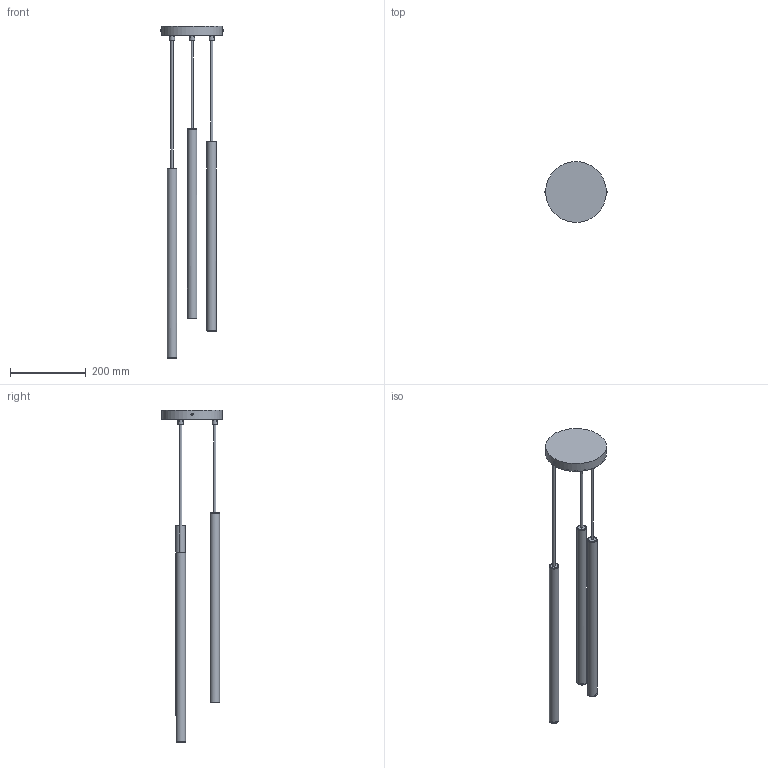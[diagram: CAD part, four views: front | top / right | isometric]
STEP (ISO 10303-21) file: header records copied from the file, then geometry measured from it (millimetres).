
FILE_DESCRIPTION ((), '1');
FILE_NAME ('C:\SIGMA\SOPEL 3\SOPEL 3.stp', '2026-04-15T13:00:22', ('Unknown'), ('Unknown'), 'HarmonyWare STEP v2.1.4', 'HarmonyWare Translators', '');
FILE_SCHEMA (('CONFIG_CONTROL_DESIGN'));
Length unit declared in the file: centimetre
Products named in the file (16): podsufitka; przewód; klosz; szkiełko; ISO7380 Hexagon socket button head screw Lustro
Assembly tree (15 placements, depth 2):
  (unnamed)
    podsufitka
    podsufitka
    podsufitka
    podsufitka
    przewód
    przewód
    przewód
    klosz
    szkiełko
    klosz
    szkiełko
    szkiełko
    klosz
    ISO7380 Hexagon socket button head screw Lustro
    ISO7380 Hexagon socket button head screw Lustro
Bounding box: 163.94 x 159.85 x 874.13 mm (x, y, z)
Volume: 1212592.2 mm3; surface area: 199879.2 mm2
Topology: 15 solids, 15 shells, 173 faces, 393 edges, 256 vertices
Faces by surface type: bspline 173
Entity records: 21658 total; most frequent: CARTESIAN_POINT 16726, ORIENTED_EDGE 786, EDGE_CURVE 393, B_SPLINE_CURVE_WITH_KNOTS 300, VERTEX_POINT 255, EDGE_LOOP 184, FACE_OUTER_BOUND 173, ADVANCED_FACE 173
